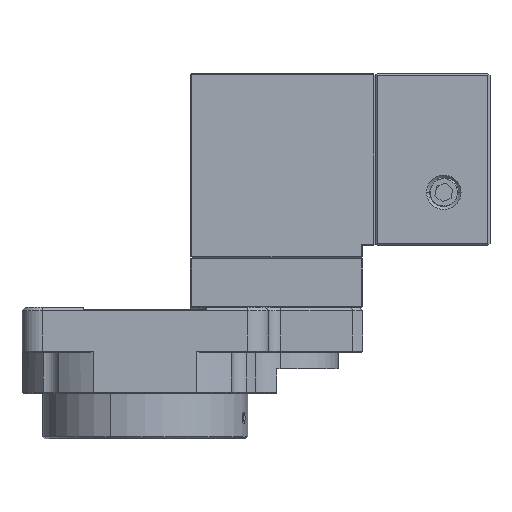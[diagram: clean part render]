
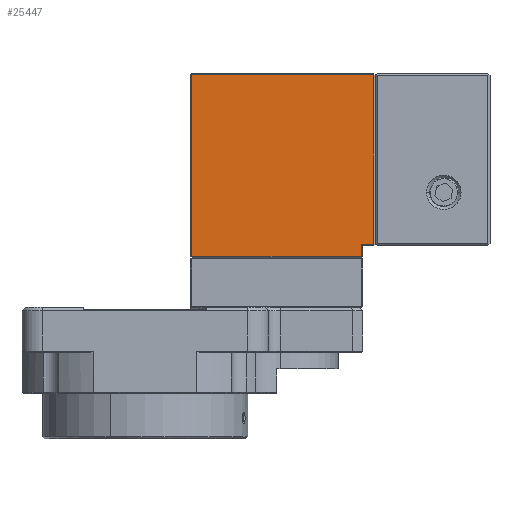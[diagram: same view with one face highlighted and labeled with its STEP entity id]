
A CAD part, left-side view. The second image highlights one B-rep face of the part: STEP entity #25447.
In plain terms, the highlighted planar face has unit normal (-1, 0, 0).
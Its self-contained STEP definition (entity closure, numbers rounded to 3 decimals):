
#635 = CARTESIAN_POINT ( 'NONE',  ( -21., -56., 57. ) ) ;
#719 = VECTOR ( 'NONE', #18586, 1000. ) ;
#757 = VECTOR ( 'NONE', #15464, 1000. ) ;
#1007 = LINE ( 'NONE', #7222, #12297 ) ;
#1242 = CARTESIAN_POINT ( 'NONE',  ( -21., -55.7, 57. ) ) ;
#2196 = VERTEX_POINT ( 'NONE', #6802 ) ;
#2789 = EDGE_CURVE ( 'NONE', #22668, #22069, #5842, .T. ) ;
#2983 = DIRECTION ( 'NONE',  ( 0., 1., 0. ) ) ;
#3000 = LINE ( 'NONE', #4675, #719 ) ;
#3059 = ORIENTED_EDGE ( 'NONE', *, *, #4587, .T. ) ;
#3515 = CARTESIAN_POINT ( 'NONE',  ( -21., -56., 12.3 ) ) ;
#3517 = ORIENTED_EDGE ( 'NONE', *, *, #2789, .T. ) ;
#3829 = VERTEX_POINT ( 'NONE', #6344 ) ;
#4587 = EDGE_CURVE ( 'NONE', #3829, #23125, #1007, .T. ) ;
#4675 = CARTESIAN_POINT ( 'NONE',  ( -21., -11.3, 12. ) ) ;
#5605 = EDGE_CURVE ( 'NONE', #23125, #2196, #3000, .T. ) ;
#5842 = LINE ( 'NONE', #17557, #7966 ) ;
#6344 = CARTESIAN_POINT ( 'NONE',  ( -21., -55.7, 56.7 ) ) ;
#6802 = CARTESIAN_POINT ( 'NONE',  ( -21., -11.3, 12.3 ) ) ;
#7222 = CARTESIAN_POINT ( 'NONE',  ( -21., -56., 56.7 ) ) ;
#7266 = LINE ( 'NONE', #17421, #17109 ) ;
#7966 = VECTOR ( 'NONE', #23421, 1000. ) ;
#8885 = VERTEX_POINT ( 'NONE', #14209 ) ;
#9148 = DIRECTION ( 'NONE',  ( 0., 0., 1. ) ) ;
#12297 = VECTOR ( 'NONE', #19079, 1000. ) ;
#13359 = ORIENTED_EDGE ( 'NONE', *, *, #18614, .T. ) ;
#14138 = EDGE_LOOP ( 'NONE', ( #14796, #3517, #14761, #3059, #22332, #13359 ) ) ;
#14209 = CARTESIAN_POINT ( 'NONE',  ( -21., -52.7, 12.3 ) ) ;
#14761 = ORIENTED_EDGE ( 'NONE', *, *, #23384, .T. ) ;
#14796 = ORIENTED_EDGE ( 'NONE', *, *, #25139, .T. ) ;
#15464 = DIRECTION ( 'NONE',  ( 0., -1., 0. ) ) ;
#15493 = CARTESIAN_POINT ( 'NONE',  ( -21., -55.7, 15.3 ) ) ;
#16304 = CARTESIAN_POINT ( 'NONE',  ( -21., -11.3, 56.7 ) ) ;
#16358 = DIRECTION ( 'NONE',  ( -1., 0., 0. ) ) ;
#17109 = VECTOR ( 'NONE', #21432, 1000. ) ;
#17421 = CARTESIAN_POINT ( 'NONE',  ( -21., -52.7, 15. ) ) ;
#17557 = CARTESIAN_POINT ( 'NONE',  ( -21., -56., 15.3 ) ) ;
#18586 = DIRECTION ( 'NONE',  ( 0., 0., -1. ) ) ;
#18614 = EDGE_CURVE ( 'NONE', #2196, #8885, #19508, .T. ) ;
#18752 = VECTOR ( 'NONE', #9148, 1000. ) ;
#19079 = DIRECTION ( 'NONE',  ( 0., 1., 0. ) ) ;
#19190 = AXIS2_PLACEMENT_3D ( 'NONE', #635, #16358, #2983 ) ;
#19508 = LINE ( 'NONE', #3515, #757 ) ;
#20638 = PLANE ( 'NONE',  #19190 ) ;
#20778 = FACE_OUTER_BOUND ( 'NONE', #14138, .T. ) ;
#21432 = DIRECTION ( 'NONE',  ( 0., 0., 1. ) ) ;
#21786 = CARTESIAN_POINT ( 'NONE',  ( -21., -52.7, 15.3 ) ) ;
#22069 = VERTEX_POINT ( 'NONE', #15493 ) ;
#22332 = ORIENTED_EDGE ( 'NONE', *, *, #5605, .T. ) ;
#22668 = VERTEX_POINT ( 'NONE', #21786 ) ;
#22948 = LINE ( 'NONE', #1242, #18752 ) ;
#23125 = VERTEX_POINT ( 'NONE', #16304 ) ;
#23384 = EDGE_CURVE ( 'NONE', #22069, #3829, #22948, .T. ) ;
#23421 = DIRECTION ( 'NONE',  ( 0., -1., 0. ) ) ;
#25139 = EDGE_CURVE ( 'NONE', #8885, #22668, #7266, .T. ) ;
#25447 = ADVANCED_FACE ( 'NONE', ( #20778 ), #20638, .T. ) ;
